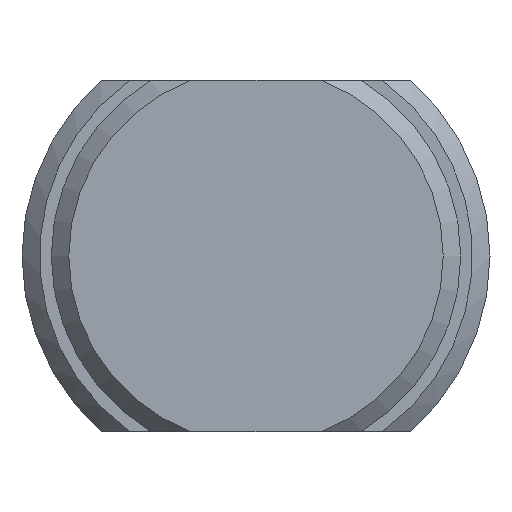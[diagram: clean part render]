
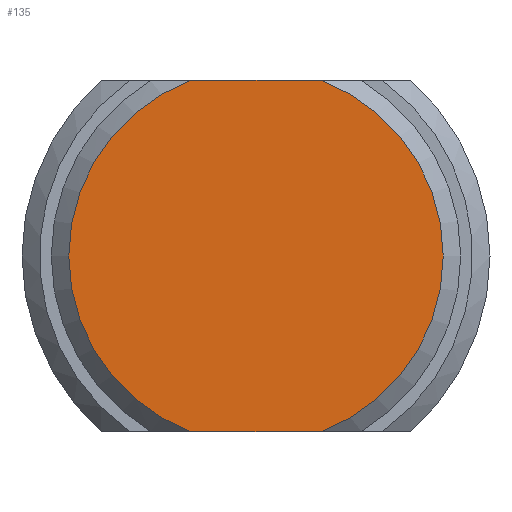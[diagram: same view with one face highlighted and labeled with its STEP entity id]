
A CAD part, front view. The second image highlights one B-rep face of the part: STEP entity #135.
In plain terms, the highlighted planar face has unit normal (0, -1, 0).
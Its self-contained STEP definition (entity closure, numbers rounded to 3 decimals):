
#21 = DIRECTION ( 'NONE',  ( 0., 0., 1. ) ) ;
#39 = EDGE_LOOP ( 'NONE', ( #123, #218, #496, #215 ) ) ;
#43 = VERTEX_POINT ( 'NONE', #451 ) ;
#68 = DIRECTION ( 'NONE',  ( 0., -1., 0. ) ) ;
#123 = ORIENTED_EDGE ( 'NONE', *, *, #372, .T. ) ;
#135 = ADVANCED_FACE ( 'NONE', ( #642 ), #466, .F. ) ;
#152 = VERTEX_POINT ( 'NONE', #688 ) ;
#176 = VERTEX_POINT ( 'NONE', #243 ) ;
#183 = DIRECTION ( 'NONE',  ( -1., 0., 0. ) ) ;
#215 = ORIENTED_EDGE ( 'NONE', *, *, #523, .T. ) ;
#218 = ORIENTED_EDGE ( 'NONE', *, *, #313, .T. ) ;
#227 = CARTESIAN_POINT ( 'NONE',  ( -6.5, -5., -3. ) ) ;
#235 = CARTESIAN_POINT ( 'NONE',  ( -6.5, -5., 3. ) ) ;
#243 = CARTESIAN_POINT ( 'NONE',  ( -1.114, -5., 3. ) ) ;
#256 = CARTESIAN_POINT ( 'NONE',  ( 0., -5., 0. ) ) ;
#267 = VECTOR ( 'NONE', #183, 1000. ) ;
#284 = DIRECTION ( 'NONE',  ( 0., 0., 1. ) ) ;
#313 = EDGE_CURVE ( 'NONE', #43, #152, #651, .T. ) ;
#331 = VERTEX_POINT ( 'NONE', #428 ) ;
#360 = DIRECTION ( 'NONE',  ( 0., -1., 0. ) ) ;
#372 = EDGE_CURVE ( 'NONE', #331, #43, #543, .T. ) ;
#396 = LINE ( 'NONE', #235, #267 ) ;
#428 = CARTESIAN_POINT ( 'NONE',  ( -1.114, -5., -3. ) ) ;
#445 = AXIS2_PLACEMENT_3D ( 'NONE', #256, #360, #492 ) ;
#450 = DIRECTION ( 'NONE',  ( 1., 0., 0. ) ) ;
#451 = CARTESIAN_POINT ( 'NONE',  ( 1.114, -5., -3. ) ) ;
#466 = PLANE ( 'NONE',  #717 ) ;
#492 = DIRECTION ( 'NONE',  ( 0., 0., 1. ) ) ;
#496 = ORIENTED_EDGE ( 'NONE', *, *, #616, .T. ) ;
#497 = AXIS2_PLACEMENT_3D ( 'NONE', #693, #68, #284 ) ;
#523 = EDGE_CURVE ( 'NONE', #176, #331, #552, .T. ) ;
#534 = VECTOR ( 'NONE', #450, 1000. ) ;
#543 = LINE ( 'NONE', #227, #534 ) ;
#552 = CIRCLE ( 'NONE', #497, 3.2 ) ;
#569 = DIRECTION ( 'NONE',  ( 0., 1., 0. ) ) ;
#616 = EDGE_CURVE ( 'NONE', #152, #176, #396, .T. ) ;
#642 = FACE_OUTER_BOUND ( 'NONE', #39, .T. ) ;
#651 = CIRCLE ( 'NONE', #445, 3.2 ) ;
#688 = CARTESIAN_POINT ( 'NONE',  ( 1.114, -5., 3. ) ) ;
#693 = CARTESIAN_POINT ( 'NONE',  ( 0., -5., 0. ) ) ;
#695 = CARTESIAN_POINT ( 'NONE',  ( 0., -5., 0. ) ) ;
#717 = AXIS2_PLACEMENT_3D ( 'NONE', #695, #569, #21 ) ;
